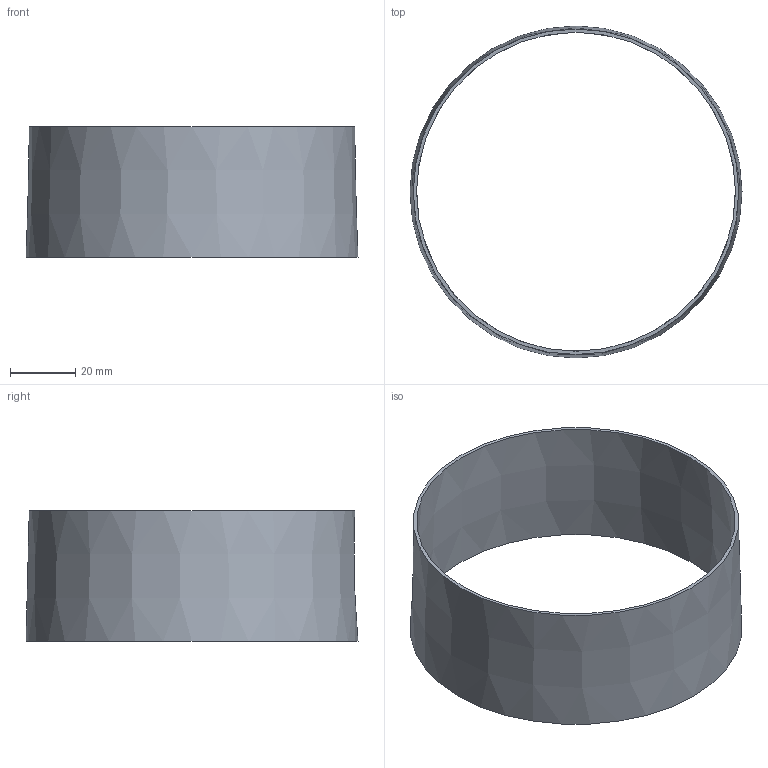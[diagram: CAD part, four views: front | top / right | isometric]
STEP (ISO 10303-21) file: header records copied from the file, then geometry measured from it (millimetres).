
FILE_DESCRIPTION( ( 'STEP AP214' ), '1' );
FILE_NAME( 'C:/Users/ilukic/Documents/ex/gebaudeentwasserung/pe/Geberit PE support ring/359459.stp', '2020-03-26T18:41:23', ( '' ), ( '' ), ' ', 'PARTsolutions', ' ' );
FILE_SCHEMA( ( 'AUTOMOTIVE_DESIGN { 1 0 10303 214 1 1 1 1 }' ) );
Length unit declared in the file: millimetre
Products named in the file (1): _359459
Bounding box: 101.4 x 101.4 x 40 mm (x, y, z)
Volume: 12495 mm3; surface area: 25614.8 mm2
Topology: 1 solids, 1 shells, 4 faces, 6 edges, 4 vertices
Faces by surface type: cone 2, plane 2
Entity records: 136 total; most frequent: DIRECTION 18, CARTESIAN_POINT 13, AXIS2_PLACEMENT_3D 9, EDGE_LOOP 8, ORIENTED_EDGE 8, STYLED_ITEM 4, PRESENTATION_STYLE_ASSIGNMENT 4, ADVANCED_FACE 4
